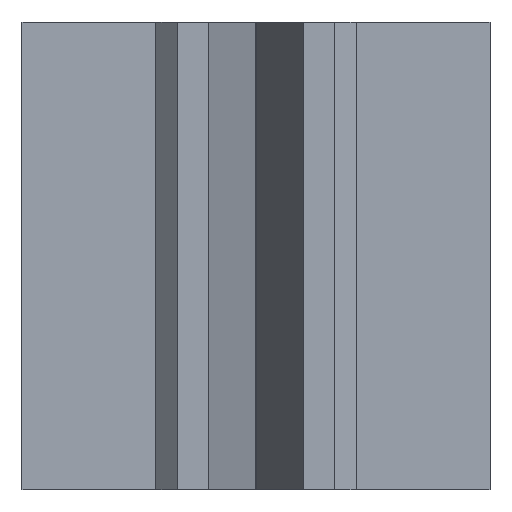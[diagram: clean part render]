
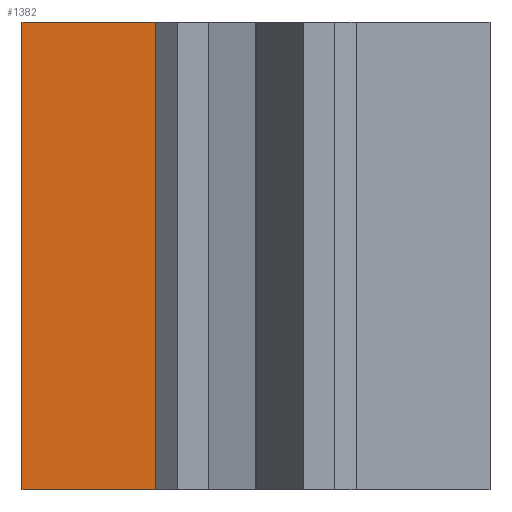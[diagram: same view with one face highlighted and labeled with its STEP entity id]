
A CAD part, front view. The second image highlights one B-rep face of the part: STEP entity #1382.
In plain terms, the highlighted planar face has unit normal (0, -1, 0).
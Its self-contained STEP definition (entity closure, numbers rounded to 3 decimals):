
#36=FACE_OUTER_BOUND('',#110,.T.);
#110=EDGE_LOOP('',(#966,#967,#968,#969));
#216=LINE('',#1966,#414);
#217=LINE('',#1969,#415);
#218=LINE('',#1971,#416);
#219=LINE('',#1972,#417);
#414=VECTOR('',#1603,10.);
#415=VECTOR('',#1606,10.);
#416=VECTOR('',#1607,10.);
#417=VECTOR('',#1608,10.);
#596=VERTEX_POINT('',#1962);
#597=VERTEX_POINT('',#1964);
#598=VERTEX_POINT('',#1968);
#599=VERTEX_POINT('',#1970);
#744=EDGE_CURVE('',#596,#597,#216,.T.);
#745=EDGE_CURVE('',#596,#598,#217,.T.);
#746=EDGE_CURVE('',#597,#599,#218,.T.);
#747=EDGE_CURVE('',#599,#598,#219,.T.);
#966=ORIENTED_EDGE('',*,*,#745,.F.);
#967=ORIENTED_EDGE('',*,*,#744,.T.);
#968=ORIENTED_EDGE('',*,*,#746,.T.);
#969=ORIENTED_EDGE('',*,*,#747,.T.);
#1308=PLANE('',#1461);
#1382=ADVANCED_FACE('',(#36),#1308,.T.);
#1461=AXIS2_PLACEMENT_3D('',#1967,#1604,#1605);
#1603=DIRECTION('',(0.,0.,1.));
#1604=DIRECTION('center_axis',(0.,-1.,0.));
#1605=DIRECTION('ref_axis',(1.,0.,0.));
#1606=DIRECTION('',(-1.,0.,0.));
#1607=DIRECTION('',(-1.,0.,0.));
#1608=DIRECTION('',(0.,0.,-1.));
#1962=CARTESIAN_POINT('',(-2.05,0.,0.));
#1964=CARTESIAN_POINT('',(-2.05,0.,10.));
#1966=CARTESIAN_POINT('',(-2.05,0.,0.));
#1967=CARTESIAN_POINT('Origin',(-2.25,0.,0.));
#1968=CARTESIAN_POINT('',(-5.,0.,0.));
#1969=CARTESIAN_POINT('',(-2.25,0.,0.));
#1970=CARTESIAN_POINT('',(-5.,0.,10.));
#1971=CARTESIAN_POINT('',(-2.25,0.,10.));
#1972=CARTESIAN_POINT('',(-5.,0.,2.5));
